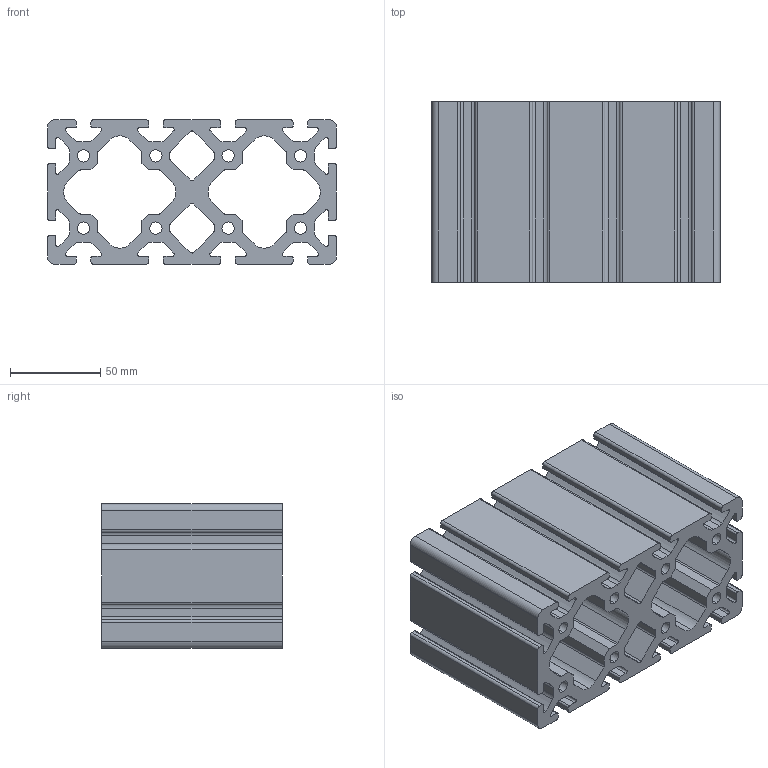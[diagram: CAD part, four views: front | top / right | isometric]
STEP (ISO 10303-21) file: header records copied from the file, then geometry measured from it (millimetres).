
FILE_DESCRIPTION (( 'STEP AP203' ), '1' );
FILE_NAME ('0108P16080S.STEP', '2024-02-28T10:01:55', ( 'Windows-Benutzer' ), ( '' ), 'SwSTEP 2.0', 'SolidWorks 2023', '' );
FILE_SCHEMA (( 'CONFIG_CONTROL_DESIGN' ));
Length unit declared in the file: millimetre
Products named in the file (1): 0108P16080S
Bounding box: 160 x 100 x 80 mm (x, y, z)
Volume: 552078.2 mm3; surface area: 175718.1 mm2
Topology: 1 solids, 1 shells, 314 faces, 936 edges, 624 vertices
Faces by surface type: cylinder 184, plane 130
Entity records: 10813 total; most frequent: DIRECTION 1934, CARTESIAN_POINT 1875, ORIENTED_EDGE 1872, EDGE_CURVE 936, AXIS2_PLACEMENT_3D 683, VERTEX_POINT 624, VECTOR 568, LINE 568
